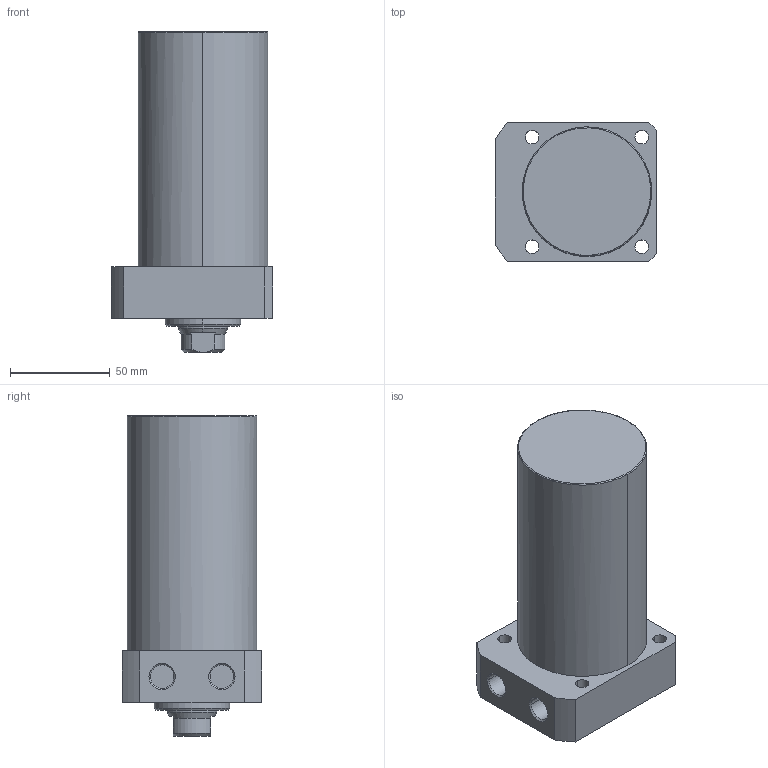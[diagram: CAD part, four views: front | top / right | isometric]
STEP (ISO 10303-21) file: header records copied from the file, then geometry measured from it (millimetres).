
FILE_DESCRIPTION((' '),'2;1');
FILE_NAME( 'TLLR-065CA-085.STEP.stp', '2025-10-24T16:34:53', (' '), ('--- Datakit www.datakit.com---'), ' Datakit CrossCadWare V2024.1 Dec 21 2023', 'Mastercam 2025', ' ');
FILE_SCHEMA(('AUTOMOTIVE_DESIGN { 1 0 10303 214 1 1 1 1 }'));
Length unit declared in the file: millimetre
Products named in the file (1): TLLR-065CA-085
Bounding box: 81 x 70 x 161 mm (x, y, z)
Volume: 535509.8 mm3; surface area: 48509.8 mm2
Topology: 1 solids, 1 shells, 63 faces, 177 edges, 122 vertices
Faces by surface type: cylinder 28, plane 19, cone 14, torus 2
Entity records: 2168 total; most frequent: CARTESIAN_POINT 405, DIRECTION 400, ORIENTED_EDGE 350, EDGE_CURVE 175, AXIS2_PLACEMENT_3D 169, VERTEX_POINT 122, CIRCLE 105, EDGE_LOOP 79
